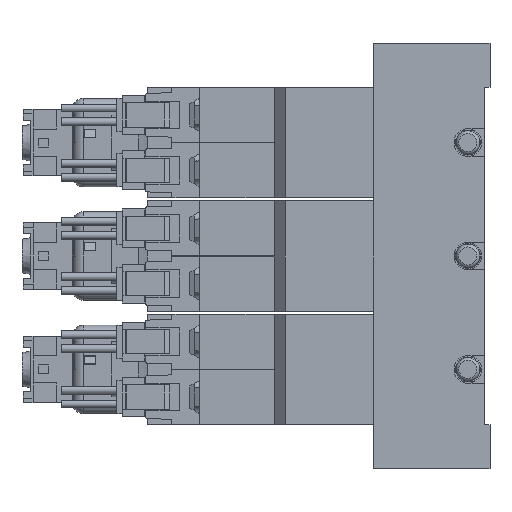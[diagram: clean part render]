
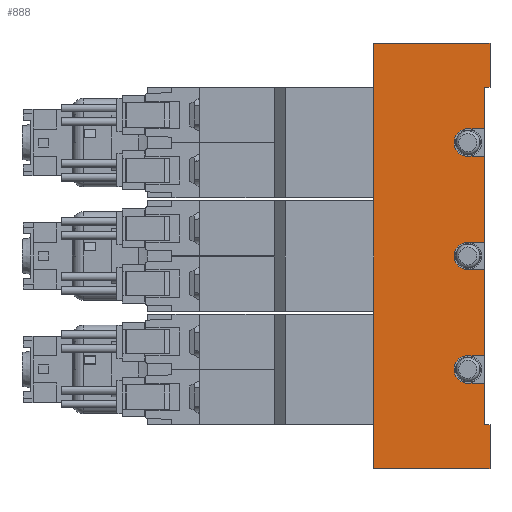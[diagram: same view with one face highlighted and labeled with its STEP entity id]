
A CAD part, left-side view. The second image highlights one B-rep face of the part: STEP entity #888.
In plain terms, the highlighted planar face has unit normal (-1, 0, 0) as drawn and (1, 0, 0) by its records, which use the part's own axes.
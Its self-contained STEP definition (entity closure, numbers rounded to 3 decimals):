
#888=ADVANCED_FACE('',(#2990),#2991,.F.);
#2990=FACE_OUTER_BOUND('',#6715,.T.);
#2991=PLANE('',#6716);
#6715=EDGE_LOOP('',(#12753,#12754,#12755,#12756,#12757,#12758,#12759,#12760,#12761,#12762,#12763,#12764,#12765,#12766,#12767,#12768,#12769,#12770,#12771,#12772));
#6716=AXIS2_PLACEMENT_3D('',#12773,#12774,#12775);
#12753=ORIENTED_EDGE('',*,*,#23544,.T.);
#12754=ORIENTED_EDGE('',*,*,#23502,.T.);
#12755=ORIENTED_EDGE('',*,*,#23545,.F.);
#12756=ORIENTED_EDGE('',*,*,#23490,.F.);
#12757=ORIENTED_EDGE('',*,*,#23476,.T.);
#12758=ORIENTED_EDGE('',*,*,#23546,.T.);
#12759=ORIENTED_EDGE('',*,*,#23542,.T.);
#12760=ORIENTED_EDGE('',*,*,#23547,.F.);
#12761=ORIENTED_EDGE('',*,*,#23548,.F.);
#12762=ORIENTED_EDGE('',*,*,#23549,.F.);
#12763=ORIENTED_EDGE('',*,*,#23539,.T.);
#12764=ORIENTED_EDGE('',*,*,#23481,.F.);
#12765=ORIENTED_EDGE('',*,*,#23513,.F.);
#12766=ORIENTED_EDGE('',*,*,#23550,.F.);
#12767=ORIENTED_EDGE('',*,*,#23537,.T.);
#12768=ORIENTED_EDGE('',*,*,#23526,.F.);
#12769=ORIENTED_EDGE('',*,*,#23497,.F.);
#12770=ORIENTED_EDGE('',*,*,#23551,.F.);
#12771=ORIENTED_EDGE('',*,*,#23535,.T.);
#12772=ORIENTED_EDGE('',*,*,#23534,.T.);
#12773=CARTESIAN_POINT('',(17.5,1.0,38.5));
#12774=DIRECTION('',(-1.0,0.0,0.0));
#12775=DIRECTION('',(0.0,0.0,1.0));
#23476=EDGE_CURVE('',#28592,#28593,#28594,.T.);
#23481=EDGE_CURVE('',#28602,#28603,#28604,.T.);
#23490=EDGE_CURVE('',#28592,#28617,#28618,.T.);
#23497=EDGE_CURVE('',#28628,#28630,#28631,.T.);
#23502=EDGE_CURVE('',#28639,#28640,#28641,.T.);
#23513=EDGE_CURVE('',#28657,#28602,#28659,.T.);
#23526=EDGE_CURVE('',#28630,#28677,#28678,.T.);
#23534=EDGE_CURVE('',#28684,#28690,#28692,.T.);
#23535=EDGE_CURVE('',#28693,#28684,#28694,.T.);
#23537=EDGE_CURVE('',#28696,#28677,#28697,.T.);
#23539=EDGE_CURVE('',#28699,#28603,#28700,.T.);
#23542=EDGE_CURVE('',#28704,#28702,#28705,.T.);
#23544=EDGE_CURVE('',#28690,#28639,#28707,.T.);
#23545=EDGE_CURVE('',#28617,#28640,#28708,.T.);
#23546=EDGE_CURVE('',#28593,#28704,#28709,.T.);
#23547=EDGE_CURVE('',#28710,#28702,#28711,.T.);
#23548=EDGE_CURVE('',#28712,#28710,#28713,.T.);
#23549=EDGE_CURVE('',#28699,#28712,#28714,.T.);
#23550=EDGE_CURVE('',#28696,#28657,#28715,.T.);
#23551=EDGE_CURVE('',#28693,#28628,#28716,.T.);
#28592=VERTEX_POINT('',#36427);
#28593=VERTEX_POINT('',#36428);
#28594=LINE('',#36429,#36430);
#28602=VERTEX_POINT('',#36441);
#28603=VERTEX_POINT('',#36442);
#28604=LINE('',#36443,#36444);
#28617=VERTEX_POINT('',#36464);
#28618=LINE('',#36465,#36466);
#28628=VERTEX_POINT('',#36479);
#28630=VERTEX_POINT('',#36482);
#28631=CIRCLE('',#36483,2.5);
#28639=VERTEX_POINT('',#36492);
#28640=VERTEX_POINT('',#36493);
#28641=LINE('',#36494,#36495);
#28657=VERTEX_POINT('',#36518);
#28659=CIRCLE('',#36521,2.5);
#28677=VERTEX_POINT('',#36541);
#28678=LINE('',#36542,#36543);
#28684=VERTEX_POINT('',#36550);
#28690=VERTEX_POINT('',#36559);
#28692=LINE('',#36562,#36563);
#28693=VERTEX_POINT('',#36564);
#28694=LINE('',#36565,#36566);
#28696=VERTEX_POINT('',#36569);
#28697=LINE('',#36570,#36571);
#28699=VERTEX_POINT('',#36574);
#28700=LINE('',#36575,#36576);
#28702=VERTEX_POINT('',#36579);
#28704=VERTEX_POINT('',#36582);
#28705=LINE('',#36583,#36584);
#28707=LINE('',#36587,#36588);
#28708=LINE('',#36589,#36590);
#28709=LINE('',#36591,#36592);
#28710=VERTEX_POINT('',#36593);
#28711=LINE('',#36594,#36595);
#28712=VERTEX_POINT('',#36596);
#28713=CIRCLE('',#36597,2.5);
#28714=LINE('',#36598,#36599);
#28715=LINE('',#36600,#36601);
#28716=LINE('',#36602,#36603);
#36427=CARTESIAN_POINT('',(17.5,0.0,38.5));
#36428=CARTESIAN_POINT('',(17.5,0.0,30.5));
#36429=CARTESIAN_POINT('',(17.5,0.0,38.5));
#36430=VECTOR('',#45597,1.0);
#36441=CARTESIAN_POINT('',(17.5,4.0,2.5));
#36442=CARTESIAN_POINT('',(17.5,1.0,2.5));
#36443=CARTESIAN_POINT('',(17.5,1.0,2.5));
#36444=VECTOR('',#45604,1.0);
#36464=CARTESIAN_POINT('',(17.5,21.0,38.5));
#36465=CARTESIAN_POINT('',(17.5,1.0,38.5));
#36466=VECTOR('',#45615,1.0);
#36479=CARTESIAN_POINT('',(17.5,4.0,-23.0));
#36482=CARTESIAN_POINT('',(17.5,4.0,-18.0));
#36483=AXIS2_PLACEMENT_3D('',#45626,#45627,#45628);
#36492=CARTESIAN_POINT('',(17.5,0.0,-38.5));
#36493=CARTESIAN_POINT('',(17.5,21.0,-38.5));
#36494=CARTESIAN_POINT('',(17.5,1.0,-38.5));
#36495=VECTOR('',#45639,1.0);
#36518=CARTESIAN_POINT('',(17.5,4.0,-2.5));
#36521=AXIS2_PLACEMENT_3D('',#45654,#45655,#45656);
#36541=CARTESIAN_POINT('',(17.5,1.0,-18.0));
#36542=CARTESIAN_POINT('',(17.5,1.0,-18.0));
#36543=VECTOR('',#45683,1.0);
#36550=CARTESIAN_POINT('',(17.5,1.0,-30.5));
#36559=CARTESIAN_POINT('',(17.5,0.0,-30.5));
#36562=CARTESIAN_POINT('',(17.5,4.0,-30.5));
#36563=VECTOR('',#45695,1.0);
#36564=CARTESIAN_POINT('',(17.5,1.0,-23.0));
#36565=CARTESIAN_POINT('',(17.5,1.0,38.5));
#36566=VECTOR('',#45696,1.0);
#36569=CARTESIAN_POINT('',(17.5,1.0,-2.5));
#36570=CARTESIAN_POINT('',(17.5,1.0,38.5));
#36571=VECTOR('',#45698,1.0);
#36574=CARTESIAN_POINT('',(17.5,1.0,18.0));
#36575=CARTESIAN_POINT('',(17.5,1.0,38.5));
#36576=VECTOR('',#45700,1.0);
#36579=CARTESIAN_POINT('',(17.5,1.0,23.0));
#36582=CARTESIAN_POINT('',(17.5,1.0,30.5));
#36583=CARTESIAN_POINT('',(17.5,1.0,38.5));
#36584=VECTOR('',#45703,1.0);
#36587=CARTESIAN_POINT('',(17.5,0.0,-30.5));
#36588=VECTOR('',#45705,1.0);
#36589=CARTESIAN_POINT('',(17.5,21.0,38.5));
#36590=VECTOR('',#45706,1.0);
#36591=CARTESIAN_POINT('',(17.5,0.0,30.5));
#36592=VECTOR('',#45707,1.0);
#36593=CARTESIAN_POINT('',(17.5,4.0,23.0));
#36594=CARTESIAN_POINT('',(17.5,1.0,23.0));
#36595=VECTOR('',#45708,1.0);
#36596=CARTESIAN_POINT('',(17.5,4.0,18.0));
#36597=AXIS2_PLACEMENT_3D('',#45709,#45710,#45711);
#36598=CARTESIAN_POINT('',(17.5,1.0,18.0));
#36599=VECTOR('',#45712,1.0);
#36600=CARTESIAN_POINT('',(17.5,1.0,-2.5));
#36601=VECTOR('',#45713,1.0);
#36602=CARTESIAN_POINT('',(17.5,1.0,-23.0));
#36603=VECTOR('',#45714,1.0);
#45597=DIRECTION('',(0.0,0.0,-1.0));
#45604=DIRECTION('',(0.0,-1.0,0.0));
#45615=DIRECTION('',(0.0,1.0,0.0));
#45626=CARTESIAN_POINT('',(17.5,4.0,-20.5));
#45627=DIRECTION('',(1.0,0.0,-0.0));
#45628=DIRECTION('',(0.0,0.0,1.0));
#45639=DIRECTION('',(0.0,1.0,0.0));
#45654=CARTESIAN_POINT('',(17.5,4.0,0.0));
#45655=DIRECTION('',(1.0,0.0,-0.0));
#45656=DIRECTION('',(0.0,0.0,1.0));
#45683=DIRECTION('',(0.0,-1.0,0.0));
#45695=DIRECTION('',(0.0,-1.0,0.0));
#45696=DIRECTION('',(0.0,0.0,-1.0));
#45698=DIRECTION('',(0.0,0.0,-1.0));
#45700=DIRECTION('',(0.0,0.0,-1.0));
#45703=DIRECTION('',(0.0,0.0,-1.0));
#45705=DIRECTION('',(0.0,0.0,-1.0));
#45706=DIRECTION('',(0.0,0.0,-1.0));
#45707=DIRECTION('',(0.0,1.0,0.0));
#45708=DIRECTION('',(0.0,-1.0,0.0));
#45709=CARTESIAN_POINT('',(17.5,4.0,20.5));
#45710=DIRECTION('',(1.0,0.0,-0.0));
#45711=DIRECTION('',(0.0,0.0,1.0));
#45712=DIRECTION('',(0.0,1.0,0.0));
#45713=DIRECTION('',(0.0,1.0,0.0));
#45714=DIRECTION('',(0.0,1.0,0.0));
